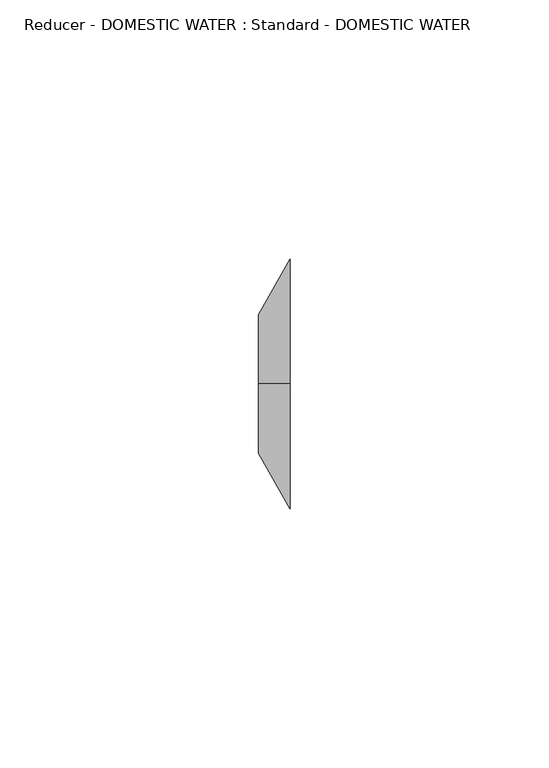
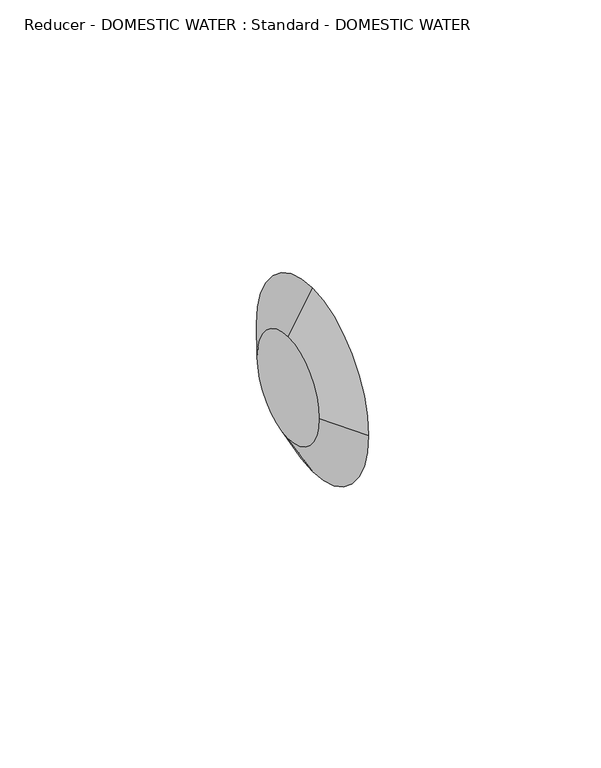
"""IFC4 building model written with IfcOpenShell, lengths in millimetres: pipe fitting geometry, Reducer - DOMESTIC WATER : Standard - DOMESTIC WATER."""

import ifcopenshell
import ifcopenshell.guid

model = None  # the IFC model being written
_history = None  # IfcOwnerHistory: only IFC2X3 demands one
_inside = {}  # id of a spatial element -> (the spatial element, [elements in it])
_under = {}  # id of a project, library or spatial element -> (it, [spatial elements below it])
_declared = {}  # id of a project -> (the project, [libraries it declares])
_typed = {}  # id of a type object -> (the type object, [elements of that type])
_made_of = {}  # id of a material, layer set ... -> (it, [elements and type objects made of it])


def new_model(schema):
    """Start an empty IFC model of exactly this schema.

    Asked for "IFC4X3", IfcOpenShell would pick the latest addendum, in which some entities
    have other attributes; the version numbers below select the first issue.
    IFC2X3 requires an IfcOwnerHistory on every rooted entity: one is made here for all.
    """
    global model, _history
    if schema == "IFC4X3":
        model = ifcopenshell.file(schema_version=(4, 3, 0, 0))
    else:
        model = ifcopenshell.file(schema=schema)
    _inside.clear()
    _under.clear()
    _declared.clear()
    _typed.clear()
    _made_of.clear()
    _history = None
    if model.schema == "IFC2X3":
        org = make("IfcOrganization", Name="unknown")
        user = make(
            "IfcPersonAndOrganization",
            ThePerson=make("IfcPerson", FamilyName="unknown"),
            TheOrganization=org,
        )
        app = make(
            "IfcApplication",
            ApplicationDeveloper=org,
            Version="unknown",
            ApplicationFullName="unknown",
            ApplicationIdentifier="unknown",
        )
        _history = make(
            "IfcOwnerHistory",
            OwningUser=user,
            OwningApplication=app,
            ChangeAction="ADDED",
            CreationDate=0,
        )
    return model


def make(cls, **values):
    """One entity of the class cls with the attributes given. An attribute that is None is left unset."""
    return model.create_entity(
        cls, **{name: value for name, value in values.items() if value is not None}
    )


def rooted(cls, **values):
    """An entity with a GlobalId (a new one), such as an element, a storey or a relation."""
    return make(cls, GlobalId=ifcopenshell.guid.new(), OwnerHistory=_history, **values)


def si_unit(unit_type, name, prefix=None):
    """IfcSIUnit, for example si_unit("LENGTHUNIT", "METRE", prefix="MILLI")."""
    return make("IfcSIUnit", UnitType=unit_type, Prefix=prefix, Name=name)


def assignment(units):
    """IfcUnitAssignment: the units of a project."""
    return None if units is None else make("IfcUnitAssignment", Units=units)


def point(xyz):
    """IfcCartesianPoint."""
    return None if xyz is None else make("IfcCartesianPoint", Coordinates=xyz)


def direction(xyz):
    """IfcDirection."""
    return None if xyz is None else make("IfcDirection", DirectionRatios=xyz)


def frame(location, z_axis=None, x_axis=None):
    """IfcAxis2Placement3D, a coordinate frame: its origin and axes. An axis left out is left unset."""
    return make(
        "IfcAxis2Placement3D",
        Location=point(location),
        Axis=direction(z_axis),
        RefDirection=direction(x_axis),
    )


def origin():
    """The frame at (0, 0, 0) with its axes left unset."""
    return frame((0.0, 0.0, 0.0))


def place(relative_to, where):
    """IfcLocalPlacement: puts the frame where relative to a parent placement (None: the world)."""
    return make(
        "IfcLocalPlacement", PlacementRelTo=relative_to, RelativePlacement=where
    )


def context(
    kind, dimensions, precision=None, world=None, true_north=None, identifier=None
):
    """IfcGeometricRepresentationContext, for example the 3D "Model" context."""
    return make(
        "IfcGeometricRepresentationContext",
        ContextIdentifier=identifier,
        ContextType=kind,
        CoordinateSpaceDimension=dimensions,
        Precision=precision,
        WorldCoordinateSystem=world,
        TrueNorth=true_north,
    )


def project(units=None, contexts=None):
    """IfcProject with its units and contexts."""
    return rooted(
        "IfcProject",
        Name="project",
        RepresentationContexts=contexts,
        UnitsInContext=assignment(units),
    )


def spatial(cls, under=None, at=None, **own):
    """A site, building, storey or space (cls), placed at a placement, below another one or the project."""
    s = rooted(cls, ObjectPlacement=at, **own)
    if under is not None:
        _under.setdefault(under.id(), (under, []))[1].append(s)
    return s


def polyline(points):
    """IfcPolyline through the points."""
    return make("IfcPolyline", Points=[point(p) for p in points])


def circle_curve(where, radius):
    """IfcCircle in the frame where."""
    return make("IfcCircle", Position=where, Radius=radius)


def shape(context_of_items, identifier, shape_type, items):
    """IfcShapeRepresentation: the items that make up one representation, for example the "Body"."""
    return make(
        "IfcShapeRepresentation",
        ContextOfItems=context_of_items,
        RepresentationIdentifier=identifier,
        RepresentationType=shape_type,
        Items=items,
    )


def source(mapping_origin, context_of_items, identifier, shape_type, items):
    """IfcRepresentationMap: a shape defined once, which mapped items show again and again."""
    return make(
        "IfcRepresentationMap",
        MappingOrigin=mapping_origin,
        MappedRepresentation=shape(context_of_items, identifier, shape_type, items),
    )


def transform(
    local_origin,
    x_axis=None,
    y_axis=None,
    z_axis=None,
    scale=None,
    scale2=None,
    scale3=None,
    uniform=True,
):
    """IfcCartesianTransformationOperator3D, or its non-uniform kind. x_axis, y_axis, z_axis: its Axis1, 2, 3."""
    if uniform:
        return make(
            "IfcCartesianTransformationOperator3D",
            Axis1=direction(x_axis),
            Axis2=direction(y_axis),
            LocalOrigin=point(local_origin),
            Scale=scale,
            Axis3=direction(z_axis),
        )
    return make(
        "IfcCartesianTransformationOperator3DnonUniform",
        Axis1=direction(x_axis),
        Axis2=direction(y_axis),
        LocalOrigin=point(local_origin),
        Scale=scale,
        Axis3=direction(z_axis),
        Scale2=scale2,
        Scale3=scale3,
    )


def mapped(mapping_source, mapping_target):
    """IfcMappedItem: shows the shape of a source again, moved by a transform."""
    return make(
        "IfcMappedItem", MappingSource=mapping_source, MappingTarget=mapping_target
    )


def made_of(thing, what):
    """Note that an element or type object is made of a material, layer set ...; save() writes the relation."""
    if what is not None:
        _made_of.setdefault(what.id(), (what, []))[1].append(thing)
    return thing


def element(
    cls,
    number,
    at=None,
    inside=None,
    cuts=None,
    type_object=None,
    material=None,
    context=None,
    identifier="Body",
    shape_type=None,
    held_by="IfcProductDefinitionShape",
    body=None,
    shapes=None,
    **own,
):
    """One element of the class cls, such as IfcWall. Its Tag is "e" and its number.

    at: its placement. inside: the storey or other place that contains it. cuts: it is an
    opening in that element (IfcRelVoidsElement). A single representation is given by context,
    identifier, shape_type and body (its items); several are given by shapes. held_by: the class
    of the entity that holds the representations. save() writes the other relations.
    """
    e = rooted(cls, Tag="e%d" % number, ObjectPlacement=at, **own)
    if body is not None:
        shapes = [shape(context, identifier, shape_type, body)]
    if shapes is not None:
        e.Representation = make(held_by, Representations=shapes)
    if inside is not None:
        _inside.setdefault(inside.id(), (inside, []))[1].append(e)
    if cuts is not None:
        rooted(
            "IfcRelVoidsElement", RelatingBuildingElement=cuts, RelatedOpeningElement=e
        )
    if type_object is not None:
        _typed.setdefault(type_object.id(), (type_object, []))[1].append(e)
    return made_of(e, material)


def aggregate(whole, parts):
    """IfcRelAggregates: a whole, such as a stair, and the parts it consists of."""
    return rooted("IfcRelAggregates", RelatingObject=whole, RelatedObjects=parts)


def save(model, path):
    """Write the relations noted so far, then the file.

    IfcRelAggregates (storeys below a building ...), IfcRelContainedInSpatialStructure (elements
    in a storey), IfcRelDefinesByType, IfcRelAssociatesMaterial and IfcRelDeclares: one each for
    every whole, place, type object, material and project.
    """
    for whole, parts in _under.values():
        aggregate(whole, parts)
    for where, things in _inside.values():
        rooted(
            "IfcRelContainedInSpatialStructure",
            RelatedElements=things,
            RelatingStructure=where,
        )
    for kind, things in _typed.values():
        rooted("IfcRelDefinesByType", RelatedObjects=things, RelatingType=kind)
    for what, things in _made_of.values():
        rooted("IfcRelAssociatesMaterial", RelatedObjects=things, RelatingMaterial=what)
    for by, libraries in _declared.values():
        rooted("IfcRelDeclares", RelatingContext=by, RelatedDefinitions=libraries)
    model.write(path)


def plane_surface(at):
    """IfcPlane: the flat surface through the origin of the frame at, square to its z axis."""
    return make("IfcPlane", Position=at)


def revolved_surface(curve, axis_point, axis_direction):
    """IfcSurfaceOfRevolution: the curve turned about the line through axis_point along axis_direction."""
    return make(
        "IfcSurfaceOfRevolution",
        SweptCurve=make("IfcArbitraryOpenProfileDef", ProfileType="CURVE", Curve=curve),
        AxisPosition=make("IfcAxis1Placement", Location=point(axis_point), Axis=direction(axis_direction)),
    )


def advanced_brep(points, edges, surfaces, faces):
    """IfcAdvancedBrep: a solid bounded by faces that lie on surfaces and meet in shared edges.

    An edge is (start, end): straight between two places in points (the first is 0);
    or (start, end, curve); or (start, end, curve, False) where it runs against its curve.
    A face is (place in surfaces, loops), or (place, loops, False) where it looks against
    its surface's normal. A loop lists edges by number (the first is 1), with a minus sign
    where the edge is run from its end to its start. The first loop is the outer one.
    """
    corners = [point(p) for p in points]
    vertices = [make("IfcVertexPoint", VertexGeometry=c) for c in corners]
    made = []
    for start, end, *more in edges:
        made.append(
            make(
                "IfcEdgeCurve",
                EdgeStart=vertices[start],
                EdgeEnd=vertices[end],
                EdgeGeometry=more[0] if more else make("IfcPolyline", Points=[corners[start], corners[end]]),
                SameSense=more[1] if len(more) > 1 else True,
            )
        )
    hull = []
    for where, loops, *sense in faces:
        bounds = []
        for j, loop in enumerate(loops):
            ring = [make("IfcOrientedEdge", EdgeElement=made[abs(k) - 1], Orientation=k > 0) for k in loop]
            bounds.append(
                make(
                    "IfcFaceOuterBound" if j == 0 else "IfcFaceBound",
                    Bound=make("IfcEdgeLoop", EdgeList=ring),
                    Orientation=True,
                )
            )
        hull.append(make("IfcAdvancedFace", Bounds=bounds, FaceSurface=surfaces[where], SameSense=sense[0] if sense else True))
    return make("IfcAdvancedBrep", Outer=make("IfcClosedShell", CfsFaces=hull))


def reducer_domestic_water_standard_domestic_water_b2dfe780(model_context):
    return source(origin(), model_context, "Body", "AdvancedBrep", [
        advanced_brep(
        [(6.0325, 0.0, 24.13), (6.0325, -24.13, 0.0), (6.0325, 0.0, -24.13), (6.0325, 24.13, 0.0), (0.0, 0.0, 13.335), (0.0, 13.335, 0.0), (0.0, 0.0, -13.335), (0.0, -13.335, 0.0)],
        [
            (0, 1, circle_curve(frame((6.0325, 0.0, 0.0), z_axis=(1.0, 0.0, 0.0), x_axis=(0.0, 0.0, 1.0)), 24.13)),
            (1, 2, circle_curve(frame((6.0325, 0.0, 0.0), z_axis=(1.0, 0.0, 0.0), x_axis=(0.0, -1.0, 0.0)), 24.13)),
            (2, 3, circle_curve(frame((6.0325, 0.0, 0.0), z_axis=(1.0, 0.0, 0.0), x_axis=(0.0, 0.0, -1.0)), 24.13)),
            (3, 0, circle_curve(frame((6.0325, 0.0, 0.0), z_axis=(1.0, 0.0, 0.0), x_axis=(0.0, 1.0, 0.0)), 24.13)),
            (4, 5, circle_curve(frame((0.0, 0.0, 0.0), z_axis=(-1.0, 0.0, 0.0), x_axis=(0.0, 1.0, 0.0)), 13.335)),
            (5, 6, circle_curve(frame((0.0, 0.0, 0.0), z_axis=(-1.0, 0.0, 0.0), x_axis=(0.0, 0.0, -1.0)), 13.335)),
            (6, 7, circle_curve(frame((0.0, 0.0, 0.0), z_axis=(-1.0, 0.0, 0.0), x_axis=(0.0, -1.0, 0.0)), 13.335)),
            (7, 4, circle_curve(frame((0.0, 0.0, 0.0), z_axis=(-1.0, 0.0, 0.0), x_axis=(0.0, 0.0, 1.0)), 13.335)),
            (7, 1),
            (0, 4),
            (6, 2),
            (5, 3),
        ],
        [
            plane_surface(frame((6.0325, 0.0, 0.0), z_axis=(1.0, 0.0, 0.0), x_axis=(0.0, -1.0, 0.0))),
            plane_surface(frame((0.0, 0.0, 0.0), z_axis=(-1.0, 0.0, 0.0), x_axis=(0.0, -1.0, 0.0))),
            revolved_surface(polyline([(0.0, -13.335000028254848, 0.0), (6.0325, -24.13, 0.0)]), (-7.4519118, 0.0, 0.0), (1.0, 0.0, 0.0)),
            revolved_surface(polyline([(0.0, 0.0, -13.335000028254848), (6.0325, 0.0, -24.13)]), (-7.4519118, 0.0, 0.0), (1.0, 0.0, 0.0)),
            revolved_surface(polyline([(0.0, 13.335000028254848, 0.0), (6.0325, 24.13, 0.0)]), (-7.4519118, 0.0, 0.0), (1.0, 0.0, 0.0)),
            revolved_surface(polyline([(0.0, 0.0, 13.335000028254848), (6.0325, 0.0, 24.13)]), (-7.4519118, 0.0, 0.0), (1.0, 0.0, 0.0)),
        ],
        [
            (0, [[1, 2, 3, 4]]),
            (1, [[5, 6, 7, 8]]),
            (2, [[-8, 9, -1, 10]]),
            (3, [[-7, 11, -2, -9]]),
            (4, [[-6, 12, -3, -11]]),
            (5, [[-5, -10, -4, -12]]),
        ],
    ),
        advanced_brep(
        [(6.0325, 0.0, 24.13), (6.0325, -24.13, 0.0), (6.0325, 0.0, -24.13), (6.0325, 24.13, 0.0), (0.0, 0.0, 13.335), (0.0, 13.335, 0.0), (0.0, 0.0, -13.335), (0.0, -13.335, 0.0)],
        [
            (0, 1, circle_curve(frame((6.0325, 0.0, 0.0), z_axis=(1.0, 0.0, -1.317455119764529e-12), x_axis=(1.3174736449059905e-12, 0.0, 1.0)), 24.13)),
            (1, 2, circle_curve(frame((6.0325, 0.0, 0.0), z_axis=(1.0, 0.0, -1.2613596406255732e-12), x_axis=(0.0, -1.0, 0.0)), 24.13)),
            (2, 3, circle_curve(frame((6.0325, 0.0, 0.0), z_axis=(1.0, 0.0, -2.067877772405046e-12), x_axis=(-2.06790836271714e-12, 0.0, -1.0)), 24.13)),
            (3, 0, circle_curve(frame((6.0325, 0.0, 0.0), z_axis=(1.0, 0.0, 0.0), x_axis=(0.0, 1.0, 0.0)), 24.13)),
            (4, 5, circle_curve(frame((0.0, 0.0, 0.0), z_axis=(-1.0, 0.0, 0.0), x_axis=(0.0, 1.0, 0.0)), 13.335)),
            (5, 6, circle_curve(frame((0.0, 0.0, 0.0), z_axis=(-1.0, 0.0, 2.067877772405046e-12), x_axis=(-2.06790836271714e-12, 0.0, -1.0)), 13.335)),
            (6, 7, circle_curve(frame((0.0, 0.0, 0.0), z_axis=(-1.0, 0.0, 1.2613596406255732e-12), x_axis=(0.0, -1.0, 0.0)), 13.335)),
            (7, 4, circle_curve(frame((0.0, 0.0, 0.0), z_axis=(-1.0, 0.0, 1.317455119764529e-12), x_axis=(1.3174736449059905e-12, 0.0, 1.0)), 13.335)),
            (7, 1),
            (0, 4),
            (6, 2),
            (5, 3),
        ],
        [
            plane_surface(frame((6.0325, 0.0, 0.0), z_axis=(1.0, 0.0, 0.0), x_axis=(0.0, -1.0, 0.0))),
            plane_surface(frame((0.0, 0.0, 0.0), z_axis=(-1.0, 0.0, 0.0), x_axis=(0.0, -1.0, 0.0))),
            revolved_surface(polyline([(-1.7568169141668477e-11, -13.33500002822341, 0.0), (6.0325, -24.13, 0.0)]), (-7.4519118, 0.0, 0.0), (1.0, 0.0, -1.317455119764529e-12)),
            revolved_surface(polyline([(-1.681943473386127e-11, 0.0, -13.33500002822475), (6.0325, 0.0, -24.13)]), (-7.4519118, 0.0, 0.0), (1.0, 0.0, -1.2613596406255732e-12)),
            revolved_surface(polyline([(0.0, 13.335000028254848, 0.0), (6.032500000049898, 24.13000000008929, 0.0)]), (-7.4519118, 0.0, 0.0), (1.0, 0.0, -2.067877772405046e-12)),
            revolved_surface(polyline([(0.0, 0.0, 13.335000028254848), (6.0325, 0.0, 24.13)]), (-7.4519118, 0.0, 0.0), (1.0, 0.0, 0.0)),
        ],
        [
            (0, [[1, 2, 3, 4]]),
            (1, [[5, 6, 7, 8]]),
            (2, [[-8, 9, -1, 10]]),
            (3, [[-7, 11, -2, -9]]),
            (4, [[-6, 12, -3, -11]]),
            (5, [[-5, -10, -4, -12]]),
        ],
    ),
    ])


if __name__ == "__main__":
    model = new_model("IFC4")
    model_context = context("Model", 3, world=origin())
    ifc_project = project(units=[si_unit("LENGTHUNIT", "METRE", prefix="MILLI")], contexts=[model_context])
    site = spatial("IfcSite", under=ifc_project)
    building = spatial("IfcBuilding", under=site)
    placement = place(None, origin())
    reducer_domestic_water_standard_domestic_water_shape = reducer_domestic_water_standard_domestic_water_b2dfe780(model_context)
    element("IfcPipeFitting", 1, ObjectType="Reducer - DOMESTIC WATER : Standard - DOMESTIC WATER", at=placement, inside=building, context=model_context, shape_type="MappedRepresentation", body=[
        mapped(reducer_domestic_water_standard_domestic_water_shape, transform((0.0, 0.0, 0.0), x_axis=(1.0, 0.0, 0.0), y_axis=(0.0, 1.0, 0.0), z_axis=(0.0, 0.0, 1.0))),
    ])
    save(model, "model.ifc")
